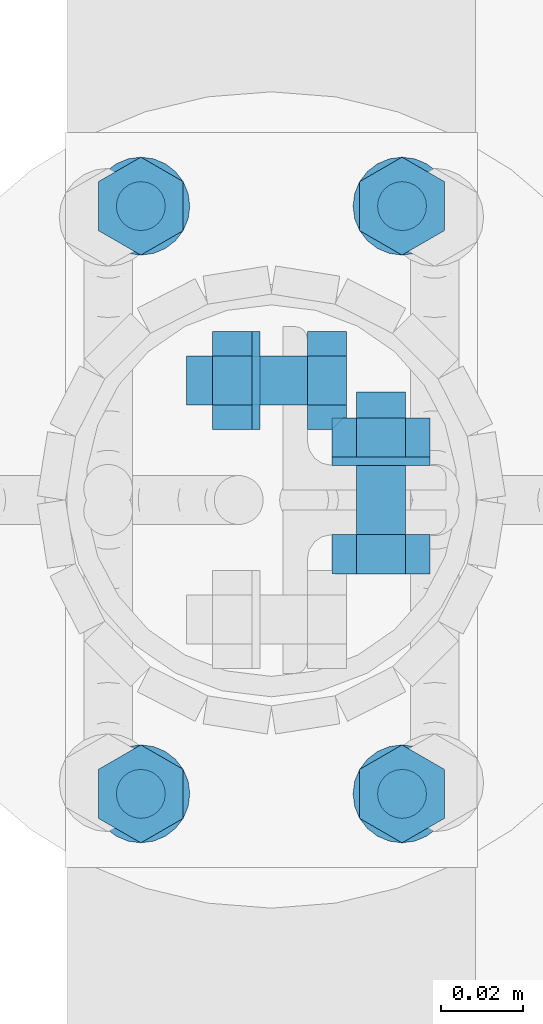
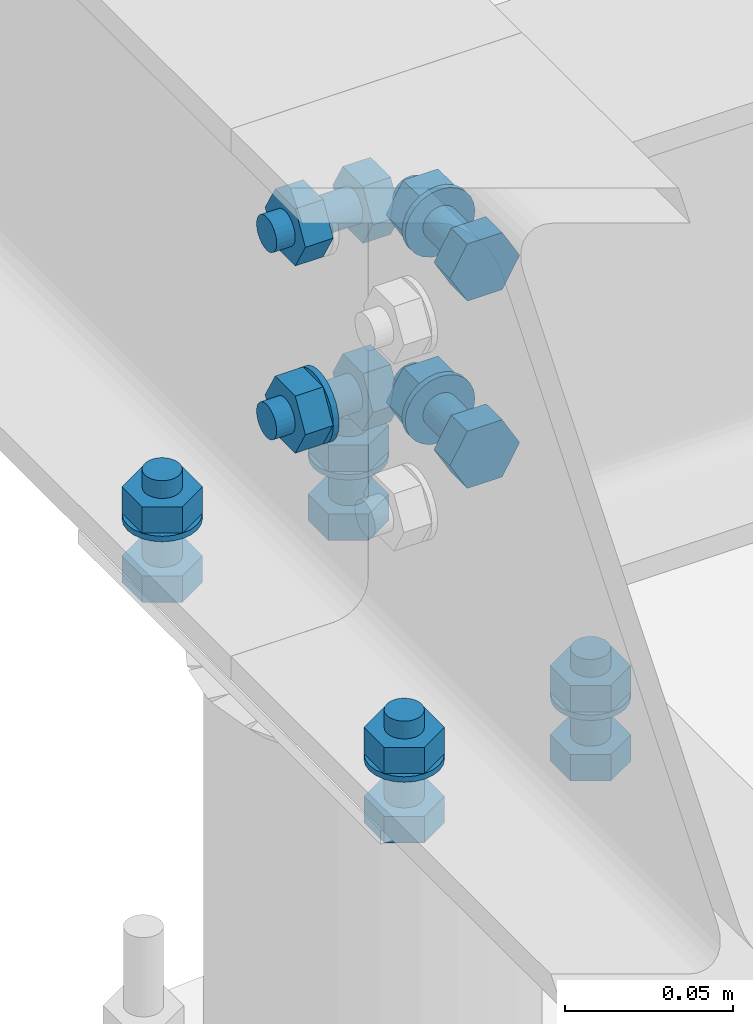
# One storey, part 26 of 84: 39 mechanical fasteners.
"""IFC4 building model written with IfcOpenShell, lengths in metres."""

from ifc_helpers import new_model, si_unit, frame, origin_with_axes, place, context, project, spatial, polyline, outline, extrude, type_object, element, save


model = new_model("IFC4")

# Units and contexts
model_context = context("Model", 3, precision=1e-05, world=origin_with_axes())
ifc_project = project(units=[si_unit("LENGTHUNIT", "METRE"), si_unit("AREAUNIT", "SQUARE_METRE"), si_unit("VOLUMEUNIT", "CUBIC_METRE"), si_unit("MASSUNIT", "GRAM", prefix="KILO"), si_unit("TIMEUNIT", "SECOND"), si_unit("PLANEANGLEUNIT", "RADIAN"), si_unit("SOLIDANGLEUNIT", "STERADIAN"), si_unit("THERMODYNAMICTEMPERATUREUNIT", "DEGREE_CELSIUS")], contexts=[model_context])

# Site, building, storey
placement_1 = place(None, origin_with_axes())
site = spatial("IfcSite", under=ifc_project, at=placement_1, Name="Italia", CompositionType="ELEMENT")
building = spatial("IfcBuilding", under=site, at=placement_1, Name="Tettoia", CompositionType="ELEMENT")
storey_placement = place(None, frame((0.0, 0.0, 4.199999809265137), z_axis=(0.0, 0.0, 1.0), x_axis=(1.0, 0.0, 0.0)))
storey = spatial("IfcBuildingStorey", under=building, at=storey_placement, Name="Storey 1", CompositionType="ELEMENT", Elevation=4.199999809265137)

# Mechanical fasteners
mechanical_fastener_type_1 = type_object("IfcMechanicalFastenerType", Name="Collegamento 0103_-003", PredefinedType="BOLT")
placement_2 = place(placement_1, origin_with_axes())
mechanical_fastener_1_placement = place(placement_2, origin_with_axes())
element("IfcMechanicalFastener", 1, at=mechanical_fastener_1_placement, inside=storey, type_object=mechanical_fastener_type_1, Name="Collegamento 0103_-003", NominalDiameter=0.0119999, context=model_context, shape_type="SweptSolid", body=[
    extrude(outline(polyline([(0.0, 0.0), (0.0120001, 0.0), (0.0180001, -0.0103931), (0.0120001, -0.0207853), (0.0, -0.0207853), (-0.00600004, -0.0103931), (0.0, 0.0)])), frame((8.33239, 4.716, 4.195), z_axis=(0.0, 0.0, -1.0), x_axis=(0.0, 1.0, 0.0)), (0.0, 0.0, 1.0), 0.00959969),
])
mechanical_fastener_type_2 = type_object("IfcMechanicalFastenerType", Name="Collegamento 0103_-003", PredefinedType="BOLT")
mechanical_fastener_2_placement = place(placement_2, origin_with_axes())
element("IfcMechanicalFastener", 2, at=mechanical_fastener_2_placement, inside=storey, type_object=mechanical_fastener_type_2, Name="Collegamento 0103_-003", NominalDiameter=0.012, context=model_context, shape_type="SweptSolid", body=[
    extrude(outline(polyline([(0.0, 0.0), (-0.000204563, -0.00155258), (-0.000803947, -0.00300026), (-0.00175762, -0.0042429), (-0.00300026, -0.00519657), (-0.00444698, -0.00579548), (-0.00600004, -0.00599957), (-0.0075531, -0.00579548), (-0.00899982, -0.00519657), (-0.0102425, -0.0042429), (-0.0111961, -0.00300026), (-0.0117955, -0.00155258), (-0.0120001, 0.0), (-0.0117955, 0.00155258), (-0.0111961, 0.00300026), (-0.0102425, 0.0042429), (-0.00899982, 0.00519657), (-0.0075531, 0.00579548), (-0.00600004, 0.00599957), (-0.00444698, 0.00579548), (-0.00300026, 0.00519657), (-0.00175762, 0.0042429), (-0.000803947, 0.00300026), (-0.000204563, 0.00155258), (0.0, 0.0)])), frame((8.322, 4.728, 4.2265), z_axis=(0.0, 0.0, -1.0), x_axis=(0.0, 1.0, 0.0)), (0.0, 0.0, 1.0), 0.0315003),
])
mechanical_fastener_type_3 = type_object("IfcMechanicalFastenerType", Name="Collegamento 0103_-003", PredefinedType="BOLT")
mechanical_fastener_3_placement = place(placement_2, origin_with_axes())
element("IfcMechanicalFastener", 3, at=mechanical_fastener_3_placement, inside=storey, type_object=mechanical_fastener_type_3, Name="Collegamento 0103_-003", NominalDiameter=0.0119999, context=model_context, shape_type="SweptSolid", body=[
    extrude(outline(polyline([(0.0, 0.0), (0.0120001, 0.0), (0.0180001, -0.0103931), (0.0120001, -0.0207853), (0.0, -0.0207853), (-0.00600004, -0.0103931), (0.0, 0.0)])), frame((8.33239, 4.716, 4.2201), z_axis=(0.0, 0.0, -1.0), x_axis=(0.0, 1.0, 0.0)), (0.0, 0.0, 1.0), 0.00960016),
])
mechanical_fastener_type_4 = type_object("IfcMechanicalFastenerType", Name="Collegamento 0103_-003", PredefinedType="BOLT")
mechanical_fastener_4_placement = place(placement_2, origin_with_axes())
element("IfcMechanicalFastener", 4, at=mechanical_fastener_4_placement, inside=storey, type_object=mechanical_fastener_type_4, Name="Collegamento 0103_-003", NominalDiameter=0.024, context=model_context, shape_type="SweptSolid", body=[
    extrude(outline(polyline([(0.0, 0.0), (-0.000409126, -0.00310612), (-0.00160789, -0.00599957), (-0.00351477, -0.00848484), (-0.00600004, -0.0103922), (-0.00889444, -0.011591), (-0.0120001, -0.0120001), (-0.0151057, -0.011591), (-0.0180001, -0.0103922), (-0.0204854, -0.00848484), (-0.0223923, -0.00599957), (-0.023591, -0.00310612), (-0.0240002, 0.0), (-0.023591, 0.00310612), (-0.0223923, 0.00599957), (-0.0204854, 0.00848484), (-0.0180001, 0.0103922), (-0.0151057, 0.011591), (-0.0120001, 0.0120001), (-0.00889444, 0.011591), (-0.00600004, 0.0103922), (-0.00351477, 0.00848484), (-0.00160789, 0.00599957), (-0.000409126, 0.00310612), (0.0, 0.0)])), frame((8.322, 4.734, 4.2105), z_axis=(0.0, 0.0, -1.0), x_axis=(0.0, 1.0, 0.0)), (0.0, 0.0, 1.0), 0.00199986),
])
mechanical_fastener_type_5 = type_object("IfcMechanicalFastenerType", Name="Collegamento 0103_-003", PredefinedType="BOLT")
mechanical_fastener_5_placement = place(placement_2, origin_with_axes())
element("IfcMechanicalFastener", 5, at=mechanical_fastener_5_placement, inside=storey, type_object=mechanical_fastener_type_5, Name="Collegamento 0103_-003", NominalDiameter=0.0119999, context=model_context, shape_type="SweptSolid", body=[
    extrude(outline(polyline([(0.0, 0.0), (0.0120001, 0.0), (0.0180001, -0.0103931), (0.0120001, -0.0207853), (0.0, -0.0207853), (-0.00600004, -0.0103931), (0.0, 0.0)])), frame((8.33239, 4.572, 4.195), z_axis=(0.0, 0.0, -1.0), x_axis=(0.0, 1.0, 0.0)), (0.0, 0.0, 1.0), 0.00959969),
])
mechanical_fastener_type_6 = type_object("IfcMechanicalFastenerType", Name="Collegamento 0103_-003", PredefinedType="BOLT")
mechanical_fastener_6_placement = place(placement_2, origin_with_axes())
element("IfcMechanicalFastener", 6, at=mechanical_fastener_6_placement, inside=storey, type_object=mechanical_fastener_type_6, Name="Collegamento 0103_-003", NominalDiameter=0.012, context=model_context, shape_type="SweptSolid", body=[
    extrude(outline(polyline([(0.0, 0.0), (-0.000204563, -0.00155258), (-0.000803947, -0.00300026), (-0.00175762, -0.0042429), (-0.00300026, -0.00519657), (-0.00444698, -0.00579548), (-0.00600004, -0.00599957), (-0.0075531, -0.00579548), (-0.00899982, -0.00519657), (-0.0102425, -0.0042429), (-0.0111961, -0.00300026), (-0.0117955, -0.00155258), (-0.0120001, 0.0), (-0.0117955, 0.00155258), (-0.0111961, 0.00300026), (-0.0102425, 0.0042429), (-0.00899982, 0.00519657), (-0.0075531, 0.00579548), (-0.00600004, 0.00599957), (-0.00444698, 0.00579548), (-0.00300026, 0.00519657), (-0.00175762, 0.0042429), (-0.000803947, 0.00300026), (-0.000204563, 0.00155258), (0.0, 0.0)])), frame((8.322, 4.584, 4.2265), z_axis=(0.0, 0.0, -1.0), x_axis=(0.0, 1.0, 0.0)), (0.0, 0.0, 1.0), 0.0315003),
])
mechanical_fastener_type_7 = type_object("IfcMechanicalFastenerType", Name="Collegamento 0103_-003", PredefinedType="BOLT")
mechanical_fastener_7_placement = place(placement_2, origin_with_axes())
element("IfcMechanicalFastener", 7, at=mechanical_fastener_7_placement, inside=storey, type_object=mechanical_fastener_type_7, Name="Collegamento 0103_-003", NominalDiameter=0.0119999, context=model_context, shape_type="SweptSolid", body=[
    extrude(outline(polyline([(0.0, 0.0), (0.0120001, 0.0), (0.0180001, -0.0103931), (0.0120001, -0.0207853), (0.0, -0.0207853), (-0.00600004, -0.0103931), (0.0, 0.0)])), frame((8.33239, 4.572, 4.2201), z_axis=(0.0, 0.0, -1.0), x_axis=(0.0, 1.0, 0.0)), (0.0, 0.0, 1.0), 0.00960016),
])
mechanical_fastener_type_8 = type_object("IfcMechanicalFastenerType", Name="Collegamento 0103_-003", PredefinedType="BOLT")
mechanical_fastener_8_placement = place(placement_2, origin_with_axes())
element("IfcMechanicalFastener", 8, at=mechanical_fastener_8_placement, inside=storey, type_object=mechanical_fastener_type_8, Name="Collegamento 0103_-003", NominalDiameter=0.024, context=model_context, shape_type="SweptSolid", body=[
    extrude(outline(polyline([(0.0, 0.0), (-0.000409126, -0.00310612), (-0.00160789, -0.00599957), (-0.00351477, -0.00848484), (-0.00600004, -0.0103922), (-0.00889444, -0.011591), (-0.0120001, -0.0120001), (-0.0151057, -0.011591), (-0.0180001, -0.0103922), (-0.0204854, -0.00848484), (-0.0223923, -0.00599957), (-0.023591, -0.00310612), (-0.0240002, 0.0), (-0.023591, 0.00310612), (-0.0223923, 0.00599957), (-0.0204854, 0.00848484), (-0.0180001, 0.0103922), (-0.0151057, 0.011591), (-0.0120001, 0.0120001), (-0.00889444, 0.011591), (-0.00600004, 0.0103922), (-0.00351477, 0.00848484), (-0.00160789, 0.00599957), (-0.000409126, 0.00310612), (0.0, 0.0)])), frame((8.322, 4.59, 4.2105), z_axis=(0.0, 0.0, -1.0), x_axis=(0.0, 1.0, 0.0)), (0.0, 0.0, 1.0), 0.00199986),
])
mechanical_fastener_type_9 = type_object("IfcMechanicalFastenerType", Name="Collegamento 0103_-003", PredefinedType="BOLT")
mechanical_fastener_9_placement = place(placement_2, origin_with_axes())
element("IfcMechanicalFastener", 9, at=mechanical_fastener_9_placement, inside=storey, type_object=mechanical_fastener_type_9, Name="Collegamento 0103_-003", NominalDiameter=0.0119999, context=model_context, shape_type="SweptSolid", body=[
    extrude(outline(polyline([(0.0, 0.0), (0.0120001, 0.0), (0.0180001, -0.0103922), (0.0120001, -0.0207853), (0.0, -0.0207853), (-0.00600004, -0.0103922), (0.0, 0.0)])), frame((8.26839, 4.716, 4.195), z_axis=(0.0, 0.0, -1.0), x_axis=(0.0, 1.0, 0.0)), (0.0, 0.0, 1.0), 0.00959969),
])
mechanical_fastener_type_10 = type_object("IfcMechanicalFastenerType", Name="Collegamento 0103_-003", PredefinedType="BOLT")
mechanical_fastener_10_placement = place(placement_2, origin_with_axes())
element("IfcMechanicalFastener", 10, at=mechanical_fastener_10_placement, inside=storey, type_object=mechanical_fastener_type_10, Name="Collegamento 0103_-003", NominalDiameter=0.012, context=model_context, shape_type="SweptSolid", body=[
    extrude(outline(polyline([(0.0, 0.0), (-0.000204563, -0.00155258), (-0.000803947, -0.00300026), (-0.00175762, -0.0042429), (-0.00300026, -0.00519657), (-0.00444698, -0.00579548), (-0.00600004, -0.00599957), (-0.0075531, -0.00579548), (-0.00899982, -0.00519657), (-0.0102425, -0.0042429), (-0.0111961, -0.00300026), (-0.0117955, -0.00155258), (-0.0120001, 0.0), (-0.0117955, 0.00155258), (-0.0111961, 0.00300026), (-0.0102425, 0.0042429), (-0.00899982, 0.00519657), (-0.0075531, 0.00579548), (-0.00600004, 0.00599957), (-0.00444698, 0.00579548), (-0.00300026, 0.00519657), (-0.00175762, 0.0042429), (-0.000803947, 0.00300026), (-0.000204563, 0.00155258), (0.0, 0.0)])), frame((8.258, 4.728, 4.2265), z_axis=(0.0, 0.0, -1.0), x_axis=(0.0, 1.0, 0.0)), (0.0, 0.0, 1.0), 0.0315003),
])
mechanical_fastener_type_11 = type_object("IfcMechanicalFastenerType", Name="Collegamento 0103_-003", PredefinedType="BOLT")
mechanical_fastener_11_placement = place(placement_2, origin_with_axes())
element("IfcMechanicalFastener", 11, at=mechanical_fastener_11_placement, inside=storey, type_object=mechanical_fastener_type_11, Name="Collegamento 0103_-003", NominalDiameter=0.0119999, context=model_context, shape_type="SweptSolid", body=[
    extrude(outline(polyline([(0.0, 0.0), (0.0120001, 0.0), (0.0180001, -0.0103922), (0.0120001, -0.0207853), (0.0, -0.0207853), (-0.00600004, -0.0103922), (0.0, 0.0)])), frame((8.26839, 4.716, 4.2201), z_axis=(0.0, 0.0, -1.0), x_axis=(0.0, 1.0, 0.0)), (0.0, 0.0, 1.0), 0.00960016),
])
mechanical_fastener_type_12 = type_object("IfcMechanicalFastenerType", Name="Collegamento 0103_-003", PredefinedType="BOLT")
mechanical_fastener_12_placement = place(placement_2, origin_with_axes())
element("IfcMechanicalFastener", 12, at=mechanical_fastener_12_placement, inside=storey, type_object=mechanical_fastener_type_12, Name="Collegamento 0103_-003", NominalDiameter=0.024, context=model_context, shape_type="SweptSolid", body=[
    extrude(outline(polyline([(0.0, 0.0), (-0.000409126, -0.00310612), (-0.00160789, -0.00599957), (-0.00351477, -0.00848484), (-0.00600004, -0.0103922), (-0.00889444, -0.011591), (-0.0120001, -0.0120001), (-0.0151057, -0.011591), (-0.0180001, -0.0103922), (-0.0204854, -0.00848484), (-0.0223923, -0.00599957), (-0.023591, -0.00310612), (-0.0240002, 0.0), (-0.023591, 0.00310612), (-0.0223923, 0.00599957), (-0.0204854, 0.00848484), (-0.0180001, 0.0103922), (-0.0151057, 0.011591), (-0.0120001, 0.0120001), (-0.00889444, 0.011591), (-0.00600004, 0.0103922), (-0.00351477, 0.00848484), (-0.00160789, 0.00599957), (-0.000409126, 0.00310612), (0.0, 0.0)])), frame((8.258, 4.734, 4.2105), z_axis=(0.0, 0.0, -1.0), x_axis=(0.0, 1.0, 0.0)), (0.0, 0.0, 1.0), 0.00199986),
])
mechanical_fastener_type_13 = type_object("IfcMechanicalFastenerType", Name="Collegamento 0103_-003", PredefinedType="BOLT")
mechanical_fastener_13_placement = place(placement_2, origin_with_axes())
element("IfcMechanicalFastener", 13, at=mechanical_fastener_13_placement, inside=storey, type_object=mechanical_fastener_type_13, Name="Collegamento 0103_-003", NominalDiameter=0.0119999, context=model_context, shape_type="SweptSolid", body=[
    extrude(outline(polyline([(0.0, 0.0), (0.0120001, 0.0), (0.0180001, -0.0103922), (0.0120001, -0.0207853), (0.0, -0.0207853), (-0.00600004, -0.0103922), (0.0, 0.0)])), frame((8.26839, 4.572, 4.195), z_axis=(0.0, 0.0, -1.0), x_axis=(0.0, 1.0, 0.0)), (0.0, 0.0, 1.0), 0.00959969),
])
mechanical_fastener_type_14 = type_object("IfcMechanicalFastenerType", Name="Collegamento 0103_-003", PredefinedType="BOLT")
mechanical_fastener_14_placement = place(placement_2, origin_with_axes())
element("IfcMechanicalFastener", 14, at=mechanical_fastener_14_placement, inside=storey, type_object=mechanical_fastener_type_14, Name="Collegamento 0103_-003", NominalDiameter=0.012, context=model_context, shape_type="SweptSolid", body=[
    extrude(outline(polyline([(0.0, 0.0), (-0.000204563, -0.00155258), (-0.000803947, -0.00300026), (-0.00175762, -0.0042429), (-0.00300026, -0.00519657), (-0.00444698, -0.00579548), (-0.00600004, -0.00599957), (-0.0075531, -0.00579548), (-0.00899982, -0.00519657), (-0.0102425, -0.0042429), (-0.0111961, -0.00300026), (-0.0117955, -0.00155258), (-0.0120001, 0.0), (-0.0117955, 0.00155258), (-0.0111961, 0.00300026), (-0.0102425, 0.0042429), (-0.00899982, 0.00519657), (-0.0075531, 0.00579548), (-0.00600004, 0.00599957), (-0.00444698, 0.00579548), (-0.00300026, 0.00519657), (-0.00175762, 0.0042429), (-0.000803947, 0.00300026), (-0.000204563, 0.00155258), (0.0, 0.0)])), frame((8.258, 4.584, 4.2265), z_axis=(0.0, 0.0, -1.0), x_axis=(0.0, 1.0, 0.0)), (0.0, 0.0, 1.0), 0.0315003),
])
mechanical_fastener_type_15 = type_object("IfcMechanicalFastenerType", Name="Collegamento 0103_-003", PredefinedType="BOLT")
mechanical_fastener_15_placement = place(placement_2, origin_with_axes())
element("IfcMechanicalFastener", 15, at=mechanical_fastener_15_placement, inside=storey, type_object=mechanical_fastener_type_15, Name="Collegamento 0103_-003", NominalDiameter=0.0119999, context=model_context, shape_type="SweptSolid", body=[
    extrude(outline(polyline([(0.0, 0.0), (0.0120001, 0.0), (0.0180001, -0.0103922), (0.0120001, -0.0207853), (0.0, -0.0207853), (-0.00600004, -0.0103922), (0.0, 0.0)])), frame((8.26839, 4.572, 4.2201), z_axis=(0.0, 0.0, -1.0), x_axis=(0.0, 1.0, 0.0)), (0.0, 0.0, 1.0), 0.00960016),
])
mechanical_fastener_type_16 = type_object("IfcMechanicalFastenerType", Name="Collegamento 0103_-003", PredefinedType="BOLT")
mechanical_fastener_16_placement = place(placement_2, origin_with_axes())
element("IfcMechanicalFastener", 16, at=mechanical_fastener_16_placement, inside=storey, type_object=mechanical_fastener_type_16, Name="Collegamento 0103_-003", NominalDiameter=0.024, context=model_context, shape_type="SweptSolid", body=[
    extrude(outline(polyline([(0.0, 0.0), (-0.000409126, -0.00310612), (-0.00160789, -0.00599957), (-0.00351477, -0.00848484), (-0.00600004, -0.0103922), (-0.00889444, -0.011591), (-0.0120001, -0.0120001), (-0.0151057, -0.011591), (-0.0180001, -0.0103922), (-0.0204854, -0.00848484), (-0.0223923, -0.00599957), (-0.023591, -0.00310612), (-0.0240002, 0.0), (-0.023591, 0.00310612), (-0.0223923, 0.00599957), (-0.0204854, 0.00848484), (-0.0180001, 0.0103922), (-0.0151057, 0.011591), (-0.0120001, 0.0120001), (-0.00889444, 0.011591), (-0.00600004, 0.0103922), (-0.00351477, 0.00848484), (-0.00160789, 0.00599957), (-0.000409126, 0.00310612), (0.0, 0.0)])), frame((8.258, 4.59, 4.2105), z_axis=(0.0, 0.0, -1.0), x_axis=(0.0, 1.0, 0.0)), (0.0, 0.0, 1.0), 0.00199986),
])
mechanical_fastener_type_17 = type_object("IfcMechanicalFastenerType", Name="Collegamento 0103_0104", PredefinedType="BOLT")
mechanical_fastener_17_placement = place(placement_2, origin_with_axes())
element("IfcMechanicalFastener", 17, at=mechanical_fastener_17_placement, inside=storey, type_object=mechanical_fastener_type_17, Name="Collegamento 0103_0104", NominalDiameter=0.0119997, context=model_context, shape_type="SweptSolid", body=[
    extrude(outline(polyline([(0.0, 0.0), (-0.0120001, 0.0), (-0.0179996, 0.0103922), (-0.0120001, 0.0207844), (0.0, 0.0207844), (0.00600052, 0.0103922), (0.0, 0.0)])), frame((8.3228, 4.6415, 4.25561), z_axis=(0.0, -1.0, 0.0), x_axis=(1.0, 0.0, 0.0)), (0.0, 0.0, 1.0), 0.00959969),
])
mechanical_fastener_type_18 = type_object("IfcMechanicalFastenerType", Name="Collegamento 0103_0104", PredefinedType="BOLT")
mechanical_fastener_18_placement = place(placement_2, origin_with_axes())
element("IfcMechanicalFastener", 18, at=mechanical_fastener_18_placement, inside=storey, type_object=mechanical_fastener_type_18, Name="Collegamento 0103_0104", NominalDiameter=0.012, context=model_context, shape_type="SweptSolid", body=[
    extrude(outline(polyline([(0.0, 0.0), (-0.000204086, -0.00155306), (-0.000802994, -0.00299978), (-0.00175667, -0.00424242), (-0.00299931, -0.00519609), (-0.00444698, -0.00579548), (-0.00599957, -0.00600004), (-0.00755215, -0.00579548), (-0.00899982, -0.00519609), (-0.0102425, -0.00424242), (-0.0111961, -0.00299978), (-0.011795, -0.00155306), (-0.0119991, 0.0), (-0.011795, 0.00155306), (-0.0111961, 0.00299978), (-0.0102425, 0.00424242), (-0.00899982, 0.00519609), (-0.00755215, 0.00579548), (-0.00599957, 0.00600004), (-0.00444698, 0.00579548), (-0.00299931, 0.00519609), (-0.00175667, 0.00424242), (-0.000802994, 0.00299978), (-0.000204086, 0.00155306), (0.0, 0.0)])), frame((8.3228, 4.6765, 4.266), z_axis=(0.0, -1.0, 0.0), x_axis=(1.0, 0.0, 0.0)), (0.0, 0.0, 1.0), 0.0350003),
])
mechanical_fastener_type_19 = type_object("IfcMechanicalFastenerType", Name="Collegamento 0103_0104", PredefinedType="BOLT")
mechanical_fastener_19_placement = place(placement_2, origin_with_axes())
element("IfcMechanicalFastener", 19, at=mechanical_fastener_19_placement, inside=storey, type_object=mechanical_fastener_type_19, Name="Collegamento 0103_0104", NominalDiameter=0.0119997, context=model_context, shape_type="SweptSolid", body=[
    extrude(outline(polyline([(0.0, 0.0), (-0.0120001, 0.0), (-0.0179996, 0.0103922), (-0.0120001, 0.0207844), (0.0, 0.0207844), (0.00600052, 0.0103922), (0.0, 0.0)])), frame((8.3228, 4.6701, 4.25561), z_axis=(0.0, -1.0, 0.0), x_axis=(1.0, 0.0, 0.0)), (0.0, 0.0, 1.0), 0.00960016),
])
mechanical_fastener_type_20 = type_object("IfcMechanicalFastenerType", Name="Collegamento 0103_0104", PredefinedType="BOLT")
mechanical_fastener_20_placement = place(placement_2, origin_with_axes())
element("IfcMechanicalFastener", 20, at=mechanical_fastener_20_placement, inside=storey, type_object=mechanical_fastener_type_20, Name="Collegamento 0103_0104", NominalDiameter=0.024, context=model_context, shape_type="SweptSolid", body=[
    extrude(outline(polyline([(0.0, 0.0), (-0.000409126, -0.00310564), (-0.00160789, -0.00600004), (-0.00351524, -0.00848532), (-0.00600052, -0.0103922), (-0.00889397, -0.011591), (-0.0120001, -0.0120001), (-0.0151062, -0.011591), (-0.0179996, -0.0103922), (-0.0204849, -0.00848532), (-0.0223923, -0.00600004), (-0.023591, -0.00310564), (-0.0240002, 0.0), (-0.023591, 0.00310564), (-0.0223923, 0.00600004), (-0.0204849, 0.00848532), (-0.0179996, 0.0103922), (-0.0151062, 0.011591), (-0.0120001, 0.0120001), (-0.00889397, 0.011591), (-0.00600052, 0.0103922), (-0.00351524, 0.00848532), (-0.00160789, 0.00600004), (-0.000409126, 0.00310564), (0.0, 0.0)])), frame((8.3288, 4.6605, 4.266), z_axis=(0.0, -1.0, 0.0), x_axis=(1.0, 0.0, 0.0)), (0.0, 0.0, 1.0), 0.00199986),
])
mechanical_fastener_type_21 = type_object("IfcMechanicalFastenerType", Name="Collegamento 0103_0104", PredefinedType="BOLT")
mechanical_fastener_21_placement = place(placement_2, origin_with_axes())
element("IfcMechanicalFastener", 21, at=mechanical_fastener_21_placement, inside=storey, type_object=mechanical_fastener_type_21, Name="Collegamento 0103_0104", NominalDiameter=0.0119997, context=model_context, shape_type="SweptSolid", body=[
    extrude(outline(polyline([(0.0, 0.0), (-0.0120001, 0.0), (-0.0179996, 0.0103922), (-0.0120001, 0.0207844), (0.0, 0.0207844), (0.00600052, 0.0103922), (0.0, 0.0)])), frame((8.3228, 4.6415, 4.32361), z_axis=(0.0, -1.0, 0.0), x_axis=(1.0, 0.0, 0.0)), (0.0, 0.0, 1.0), 0.00959969),
])
mechanical_fastener_type_22 = type_object("IfcMechanicalFastenerType", Name="Collegamento 0103_0104", PredefinedType="BOLT")
mechanical_fastener_22_placement = place(placement_2, origin_with_axes())
element("IfcMechanicalFastener", 22, at=mechanical_fastener_22_placement, inside=storey, type_object=mechanical_fastener_type_22, Name="Collegamento 0103_0104", NominalDiameter=0.012, context=model_context, shape_type="SweptSolid", body=[
    extrude(outline(polyline([(0.0, 0.0), (-0.000204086, -0.00155306), (-0.000802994, -0.00299978), (-0.00175667, -0.00424242), (-0.00299931, -0.00519609), (-0.00444698, -0.00579548), (-0.00599957, -0.00600004), (-0.00755215, -0.00579548), (-0.00899982, -0.00519609), (-0.0102425, -0.00424242), (-0.0111961, -0.00299978), (-0.011795, -0.00155306), (-0.0119991, 0.0), (-0.011795, 0.00155306), (-0.0111961, 0.00299978), (-0.0102425, 0.00424242), (-0.00899982, 0.00519609), (-0.00755215, 0.00579548), (-0.00599957, 0.00600004), (-0.00444698, 0.00579548), (-0.00299931, 0.00519609), (-0.00175667, 0.00424242), (-0.000802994, 0.00299978), (-0.000204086, 0.00155306), (0.0, 0.0)])), frame((8.3228, 4.6765, 4.334), z_axis=(0.0, -1.0, 0.0), x_axis=(1.0, 0.0, 0.0)), (0.0, 0.0, 1.0), 0.0350003),
])
mechanical_fastener_type_23 = type_object("IfcMechanicalFastenerType", Name="Collegamento 0103_0104", PredefinedType="BOLT")
mechanical_fastener_23_placement = place(placement_2, origin_with_axes())
element("IfcMechanicalFastener", 23, at=mechanical_fastener_23_placement, inside=storey, type_object=mechanical_fastener_type_23, Name="Collegamento 0103_0104", NominalDiameter=0.0119997, context=model_context, shape_type="SweptSolid", body=[
    extrude(outline(polyline([(0.0, 0.0), (-0.0120001, 0.0), (-0.0179996, 0.0103922), (-0.0120001, 0.0207844), (0.0, 0.0207844), (0.00600052, 0.0103922), (0.0, 0.0)])), frame((8.3228, 4.6701, 4.32361), z_axis=(0.0, -1.0, 0.0), x_axis=(1.0, 0.0, 0.0)), (0.0, 0.0, 1.0), 0.00960016),
])
mechanical_fastener_type_24 = type_object("IfcMechanicalFastenerType", Name="Collegamento 0103_0104", PredefinedType="BOLT")
mechanical_fastener_24_placement = place(placement_2, origin_with_axes())
element("IfcMechanicalFastener", 24, at=mechanical_fastener_24_placement, inside=storey, type_object=mechanical_fastener_type_24, Name="Collegamento 0103_0104", NominalDiameter=0.024, context=model_context, shape_type="SweptSolid", body=[
    extrude(outline(polyline([(0.0, 0.0), (-0.000409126, -0.00310564), (-0.00160789, -0.00600004), (-0.00351524, -0.00848532), (-0.00600052, -0.0103922), (-0.00889397, -0.011591), (-0.0120001, -0.0120001), (-0.0151062, -0.011591), (-0.0179996, -0.0103922), (-0.0204849, -0.00848532), (-0.0223923, -0.00600004), (-0.023591, -0.00310564), (-0.0240002, 0.0), (-0.023591, 0.00310564), (-0.0223923, 0.00600004), (-0.0204849, 0.00848532), (-0.0179996, 0.0103922), (-0.0151062, 0.011591), (-0.0120001, 0.0120001), (-0.00889397, 0.011591), (-0.00600052, 0.0103922), (-0.00351524, 0.00848532), (-0.00160789, 0.00600004), (-0.000409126, 0.00310564), (0.0, 0.0)])), frame((8.3288, 4.6605, 4.334), z_axis=(0.0, -1.0, 0.0), x_axis=(1.0, 0.0, 0.0)), (0.0, 0.0, 1.0), 0.00199986),
])
mechanical_fastener_type_25 = type_object("IfcMechanicalFastenerType", Name="Collegamento 0103_0104", PredefinedType="BOLT")
mechanical_fastener_25_placement = place(placement_2, origin_with_axes())
element("IfcMechanicalFastener", 25, at=mechanical_fastener_25_placement, inside=storey, type_object=mechanical_fastener_type_25, Name="Collegamento 0103_0104", NominalDiameter=0.0119997, context=model_context, shape_type="SweptSolid", body=[
    extrude(outline(polyline([(0.0, 0.0), (-0.0120001, 0.0), (-0.0179996, 0.0103922), (-0.0120001, 0.0207844), (0.0, 0.0207844), (0.00600052, 0.0103922), (0.0, 0.0)])), frame((8.3228, 4.6415, 4.25561), z_axis=(0.0, -1.0, 0.0), x_axis=(1.0, 0.0, 0.0)), (0.0, 0.0, 1.0), 0.00959969),
])
mechanical_fastener_type_26 = type_object("IfcMechanicalFastenerType", Name="Collegamento 0103_0104", PredefinedType="BOLT")
mechanical_fastener_26_placement = place(placement_2, origin_with_axes())
element("IfcMechanicalFastener", 26, at=mechanical_fastener_26_placement, inside=storey, type_object=mechanical_fastener_type_26, Name="Collegamento 0103_0104", NominalDiameter=0.012, context=model_context, shape_type="SweptSolid", body=[
    extrude(outline(polyline([(0.0, 0.0), (-0.000204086, -0.00155306), (-0.000802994, -0.00299978), (-0.00175667, -0.00424242), (-0.00299931, -0.00519609), (-0.00444698, -0.00579548), (-0.00599957, -0.00600004), (-0.00755215, -0.00579548), (-0.00899982, -0.00519609), (-0.0102425, -0.00424242), (-0.0111961, -0.00299978), (-0.011795, -0.00155306), (-0.0119991, 0.0), (-0.011795, 0.00155306), (-0.0111961, 0.00299978), (-0.0102425, 0.00424242), (-0.00899982, 0.00519609), (-0.00755215, 0.00579548), (-0.00599957, 0.00600004), (-0.00444698, 0.00579548), (-0.00299931, 0.00519609), (-0.00175667, 0.00424242), (-0.000802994, 0.00299978), (-0.000204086, 0.00155306), (0.0, 0.0)])), frame((8.3228, 4.6765, 4.266), z_axis=(0.0, -1.0, 0.0), x_axis=(1.0, 0.0, 0.0)), (0.0, 0.0, 1.0), 0.0350003),
])
mechanical_fastener_type_27 = type_object("IfcMechanicalFastenerType", Name="Collegamento 0103_0104", PredefinedType="BOLT")
mechanical_fastener_27_placement = place(placement_2, origin_with_axes())
element("IfcMechanicalFastener", 27, at=mechanical_fastener_27_placement, inside=storey, type_object=mechanical_fastener_type_27, Name="Collegamento 0103_0104", NominalDiameter=0.0119997, context=model_context, shape_type="SweptSolid", body=[
    extrude(outline(polyline([(0.0, 0.0), (-0.0120001, 0.0), (-0.0179996, 0.0103922), (-0.0120001, 0.0207844), (0.0, 0.0207844), (0.00600052, 0.0103922), (0.0, 0.0)])), frame((8.3228, 4.6701, 4.25561), z_axis=(0.0, -1.0, 0.0), x_axis=(1.0, 0.0, 0.0)), (0.0, 0.0, 1.0), 0.00960016),
])
mechanical_fastener_type_28 = type_object("IfcMechanicalFastenerType", Name="Collegamento 0103_0104", PredefinedType="BOLT")
mechanical_fastener_28_placement = place(placement_2, origin_with_axes())
element("IfcMechanicalFastener", 28, at=mechanical_fastener_28_placement, inside=storey, type_object=mechanical_fastener_type_28, Name="Collegamento 0103_0104", NominalDiameter=0.024, context=model_context, shape_type="SweptSolid", body=[
    extrude(outline(polyline([(0.0, 0.0), (-0.000409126, -0.00310564), (-0.00160789, -0.00600004), (-0.00351524, -0.00848532), (-0.00600052, -0.0103922), (-0.00889397, -0.011591), (-0.0120001, -0.0120001), (-0.0151062, -0.011591), (-0.0179996, -0.0103922), (-0.0204849, -0.00848532), (-0.0223923, -0.00600004), (-0.023591, -0.00310564), (-0.0240002, 0.0), (-0.023591, 0.00310564), (-0.0223923, 0.00600004), (-0.0204849, 0.00848532), (-0.0179996, 0.0103922), (-0.0151062, 0.011591), (-0.0120001, 0.0120001), (-0.00889397, 0.011591), (-0.00600052, 0.0103922), (-0.00351524, 0.00848532), (-0.00160789, 0.00600004), (-0.000409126, 0.00310564), (0.0, 0.0)])), frame((8.3288, 4.6605, 4.266), z_axis=(0.0, -1.0, 0.0), x_axis=(1.0, 0.0, 0.0)), (0.0, 0.0, 1.0), 0.00199986),
])
mechanical_fastener_type_29 = type_object("IfcMechanicalFastenerType", Name="Collegamento 0103_0104", PredefinedType="BOLT")
mechanical_fastener_29_placement = place(placement_2, origin_with_axes())
element("IfcMechanicalFastener", 29, at=mechanical_fastener_29_placement, inside=storey, type_object=mechanical_fastener_type_29, Name="Collegamento 0103_0104", NominalDiameter=0.0119997, context=model_context, shape_type="SweptSolid", body=[
    extrude(outline(polyline([(0.0, 0.0), (-0.0120001, 0.0), (-0.0179996, 0.0103922), (-0.0120001, 0.0207844), (0.0, 0.0207844), (0.00600052, 0.0103922), (0.0, 0.0)])), frame((8.3228, 4.6415, 4.32361), z_axis=(0.0, -1.0, 0.0), x_axis=(1.0, 0.0, 0.0)), (0.0, 0.0, 1.0), 0.00959969),
])
mechanical_fastener_type_30 = type_object("IfcMechanicalFastenerType", Name="Collegamento 0103_0104", PredefinedType="BOLT")
mechanical_fastener_30_placement = place(placement_2, origin_with_axes())
element("IfcMechanicalFastener", 30, at=mechanical_fastener_30_placement, inside=storey, type_object=mechanical_fastener_type_30, Name="Collegamento 0103_0104", NominalDiameter=0.012, context=model_context, shape_type="SweptSolid", body=[
    extrude(outline(polyline([(0.0, 0.0), (-0.000204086, -0.00155306), (-0.000802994, -0.00299978), (-0.00175667, -0.00424242), (-0.00299931, -0.00519609), (-0.00444698, -0.00579548), (-0.00599957, -0.00600004), (-0.00755215, -0.00579548), (-0.00899982, -0.00519609), (-0.0102425, -0.00424242), (-0.0111961, -0.00299978), (-0.011795, -0.00155306), (-0.0119991, 0.0), (-0.011795, 0.00155306), (-0.0111961, 0.00299978), (-0.0102425, 0.00424242), (-0.00899982, 0.00519609), (-0.00755215, 0.00579548), (-0.00599957, 0.00600004), (-0.00444698, 0.00579548), (-0.00299931, 0.00519609), (-0.00175667, 0.00424242), (-0.000802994, 0.00299978), (-0.000204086, 0.00155306), (0.0, 0.0)])), frame((8.3228, 4.6765, 4.334), z_axis=(0.0, -1.0, 0.0), x_axis=(1.0, 0.0, 0.0)), (0.0, 0.0, 1.0), 0.0350003),
])
mechanical_fastener_type_31 = type_object("IfcMechanicalFastenerType", Name="Collegamento 0103_0104", PredefinedType="BOLT")
mechanical_fastener_31_placement = place(placement_2, origin_with_axes())
element("IfcMechanicalFastener", 31, at=mechanical_fastener_31_placement, inside=storey, type_object=mechanical_fastener_type_31, Name="Collegamento 0103_0104", NominalDiameter=0.0119997, context=model_context, shape_type="SweptSolid", body=[
    extrude(outline(polyline([(0.0, 0.0), (-0.0120001, 0.0), (-0.0179996, 0.0103922), (-0.0120001, 0.0207844), (0.0, 0.0207844), (0.00600052, 0.0103922), (0.0, 0.0)])), frame((8.3228, 4.6701, 4.32361), z_axis=(0.0, -1.0, 0.0), x_axis=(1.0, 0.0, 0.0)), (0.0, 0.0, 1.0), 0.00960016),
])
mechanical_fastener_type_32 = type_object("IfcMechanicalFastenerType", Name="Collegamento 0103_0104", PredefinedType="BOLT")
mechanical_fastener_32_placement = place(placement_2, origin_with_axes())
element("IfcMechanicalFastener", 32, at=mechanical_fastener_32_placement, inside=storey, type_object=mechanical_fastener_type_32, Name="Collegamento 0103_0104", NominalDiameter=0.024, context=model_context, shape_type="SweptSolid", body=[
    extrude(outline(polyline([(0.0, 0.0), (-0.000409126, -0.00310564), (-0.00160789, -0.00600004), (-0.00351524, -0.00848532), (-0.00600052, -0.0103922), (-0.00889397, -0.011591), (-0.0120001, -0.0120001), (-0.0151062, -0.011591), (-0.0179996, -0.0103922), (-0.0204849, -0.00848532), (-0.0223923, -0.00600004), (-0.023591, -0.00310564), (-0.0240002, 0.0), (-0.023591, 0.00310564), (-0.0223923, 0.00600004), (-0.0204849, 0.00848532), (-0.0179996, 0.0103922), (-0.0151062, 0.011591), (-0.0120001, 0.0120001), (-0.00889397, 0.011591), (-0.00600052, 0.0103922), (-0.00351524, 0.00848532), (-0.00160789, 0.00600004), (-0.000409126, 0.00310564), (0.0, 0.0)])), frame((8.3288, 4.6605, 4.334), z_axis=(0.0, -1.0, 0.0), x_axis=(1.0, 0.0, 0.0)), (0.0, 0.0, 1.0), 0.00199986),
])
mechanical_fastener_type_33 = type_object("IfcMechanicalFastenerType", Name="Collegamento 0103_0104", PredefinedType="BOLT")
mechanical_fastener_33_placement = place(placement_2, origin_with_axes())
element("IfcMechanicalFastener", 33, at=mechanical_fastener_33_placement, inside=storey, type_object=mechanical_fastener_type_33, Name="Collegamento 0103_0104", NominalDiameter=0.0119996, context=model_context, shape_type="SweptSolid", body=[
    extrude(outline(polyline([(0.0, 0.0), (-0.0119996, 0.0), (-0.0179996, 0.0103922), (-0.0119996, 0.0207844), (0.0, 0.0207844), (0.00600004, 0.0103922), (0.0, 0.0)])), frame((8.2988, 4.6853, 4.25561), z_axis=(1.0, 0.0, 0.0), x_axis=(0.0, 1.0, 0.0)), (0.0, 0.0, 1.0), 0.00960064),
])
mechanical_fastener_type_34 = type_object("IfcMechanicalFastenerType", Name="Collegamento 0103_0104", PredefinedType="BOLT")
mechanical_fastener_34_placement = place(placement_2, origin_with_axes())
element("IfcMechanicalFastener", 34, at=mechanical_fastener_34_placement, inside=storey, type_object=mechanical_fastener_type_34, Name="Collegamento 0103_0104", NominalDiameter=0.012, context=model_context, shape_type="SweptSolid", body=[
    extrude(outline(polyline([(0.0, 0.0), (-0.000204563, -0.00155306), (-0.000803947, -0.00299978), (-0.00175762, -0.00424242), (-0.00300026, -0.00519609), (-0.00444698, -0.00579548), (-0.00600004, -0.00600004), (-0.0075531, -0.00579548), (-0.00899982, -0.00519609), (-0.0102425, -0.00424242), (-0.0111961, -0.00299978), (-0.0117955, -0.00155306), (-0.0120001, 0.0), (-0.0117955, 0.00155306), (-0.0111961, 0.00299978), (-0.0102425, 0.00424242), (-0.00899982, 0.00519609), (-0.0075531, 0.00579548), (-0.00600004, 0.00600004), (-0.00444698, 0.00579548), (-0.00300026, 0.00519609), (-0.00175762, 0.00424242), (-0.000803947, 0.00299978), (-0.000204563, 0.00155306), (0.0, 0.0)])), frame((8.2692, 4.6853, 4.266), z_axis=(1.0, 0.0, 0.0), x_axis=(0.0, 1.0, 0.0)), (0.0, 0.0, 1.0), 0.0295992),
])
mechanical_fastener_type_35 = type_object("IfcMechanicalFastenerType", Name="Collegamento 0103_0104", PredefinedType="BOLT")
mechanical_fastener_35_placement = place(placement_2, origin_with_axes())
element("IfcMechanicalFastener", 35, at=mechanical_fastener_35_placement, inside=storey, type_object=mechanical_fastener_type_35, Name="Collegamento 0103_0104", NominalDiameter=0.0119996, context=model_context, shape_type="SweptSolid", body=[
    extrude(outline(polyline([(0.0, 0.0), (-0.0119996, 0.0), (-0.0179996, 0.0103922), (-0.0119996, 0.0207844), (0.0, 0.0207844), (0.00600004, 0.0103922), (0.0, 0.0)])), frame((8.2756, 4.6853, 4.25561), z_axis=(1.0, 0.0, 0.0), x_axis=(0.0, 1.0, 0.0)), (0.0, 0.0, 1.0), 0.00960064),
])
mechanical_fastener_type_36 = type_object("IfcMechanicalFastenerType", Name="Collegamento 0103_0104", PredefinedType="BOLT")
mechanical_fastener_36_placement = place(placement_2, origin_with_axes())
element("IfcMechanicalFastener", 36, at=mechanical_fastener_36_placement, inside=storey, type_object=mechanical_fastener_type_36, Name="Collegamento 0103_0104", NominalDiameter=0.024, context=model_context, shape_type="SweptSolid", body=[
    extrude(outline(polyline([(0.0, 0.0), (-0.000409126, -0.00310564), (-0.00160789, -0.00600004), (-0.00351477, -0.00848532), (-0.00600004, -0.0103922), (-0.00889444, -0.011591), (-0.0120001, -0.0120001), (-0.0151057, -0.011591), (-0.0180001, -0.0103922), (-0.0204854, -0.00848532), (-0.0223923, -0.00600004), (-0.023591, -0.00310564), (-0.0240002, 0.0), (-0.023591, 0.00310564), (-0.0223923, 0.00600004), (-0.0204854, 0.00848532), (-0.0180001, 0.0103922), (-0.0151057, 0.011591), (-0.0120001, 0.0120001), (-0.00889444, 0.011591), (-0.00600004, 0.0103922), (-0.00351477, 0.00848532), (-0.00160789, 0.00600004), (-0.000409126, 0.00310564), (0.0, 0.0)])), frame((8.2852, 4.6913, 4.266), z_axis=(1.0, 0.0, 0.0), x_axis=(0.0, 1.0, 0.0)), (0.0, 0.0, 1.0), 0.00199986),
])
mechanical_fastener_type_37 = type_object("IfcMechanicalFastenerType", Name="Collegamento 0103_0104", PredefinedType="BOLT")
mechanical_fastener_37_placement = place(placement_2, origin_with_axes())
element("IfcMechanicalFastener", 37, at=mechanical_fastener_37_placement, inside=storey, type_object=mechanical_fastener_type_37, Name="Collegamento 0103_0104", NominalDiameter=0.0119996, context=model_context, shape_type="SweptSolid", body=[
    extrude(outline(polyline([(0.0, 0.0), (-0.0119996, 0.0), (-0.0179996, 0.0103922), (-0.0119996, 0.0207844), (0.0, 0.0207844), (0.00600004, 0.0103922), (0.0, 0.0)])), frame((8.2988, 4.6853, 4.32361), z_axis=(1.0, 0.0, 0.0), x_axis=(0.0, 1.0, 0.0)), (0.0, 0.0, 1.0), 0.00960064),
])
mechanical_fastener_type_38 = type_object("IfcMechanicalFastenerType", Name="Collegamento 0103_0104", PredefinedType="BOLT")
mechanical_fastener_38_placement = place(placement_2, origin_with_axes())
element("IfcMechanicalFastener", 38, at=mechanical_fastener_38_placement, inside=storey, type_object=mechanical_fastener_type_38, Name="Collegamento 0103_0104", NominalDiameter=0.012, context=model_context, shape_type="SweptSolid", body=[
    extrude(outline(polyline([(0.0, 0.0), (-0.000204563, -0.00155306), (-0.000803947, -0.00299978), (-0.00175762, -0.00424242), (-0.00300026, -0.00519609), (-0.00444698, -0.00579548), (-0.00600004, -0.00600004), (-0.0075531, -0.00579548), (-0.00899982, -0.00519609), (-0.0102425, -0.00424242), (-0.0111961, -0.00299978), (-0.0117955, -0.00155306), (-0.0120001, 0.0), (-0.0117955, 0.00155306), (-0.0111961, 0.00299978), (-0.0102425, 0.00424242), (-0.00899982, 0.00519609), (-0.0075531, 0.00579548), (-0.00600004, 0.00600004), (-0.00444698, 0.00579548), (-0.00300026, 0.00519609), (-0.00175762, 0.00424242), (-0.000803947, 0.00299978), (-0.000204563, 0.00155306), (0.0, 0.0)])), frame((8.2692, 4.6853, 4.334), z_axis=(1.0, 0.0, 0.0), x_axis=(0.0, 1.0, 0.0)), (0.0, 0.0, 1.0), 0.0295992),
])
mechanical_fastener_type_39 = type_object("IfcMechanicalFastenerType", Name="Collegamento 0103_0104", PredefinedType="BOLT")
mechanical_fastener_39_placement = place(placement_2, origin_with_axes())
element("IfcMechanicalFastener", 39, at=mechanical_fastener_39_placement, inside=storey, type_object=mechanical_fastener_type_39, Name="Collegamento 0103_0104", NominalDiameter=0.0119996, context=model_context, shape_type="SweptSolid", body=[
    extrude(outline(polyline([(0.0, 0.0), (-0.0119996, 0.0), (-0.0179996, 0.0103922), (-0.0119996, 0.0207844), (0.0, 0.0207844), (0.00600004, 0.0103922), (0.0, 0.0)])), frame((8.2756, 4.6853, 4.32361), z_axis=(1.0, 0.0, 0.0), x_axis=(0.0, 1.0, 0.0)), (0.0, 0.0, 1.0), 0.00960064),
])

save(model, "model.ifc")
